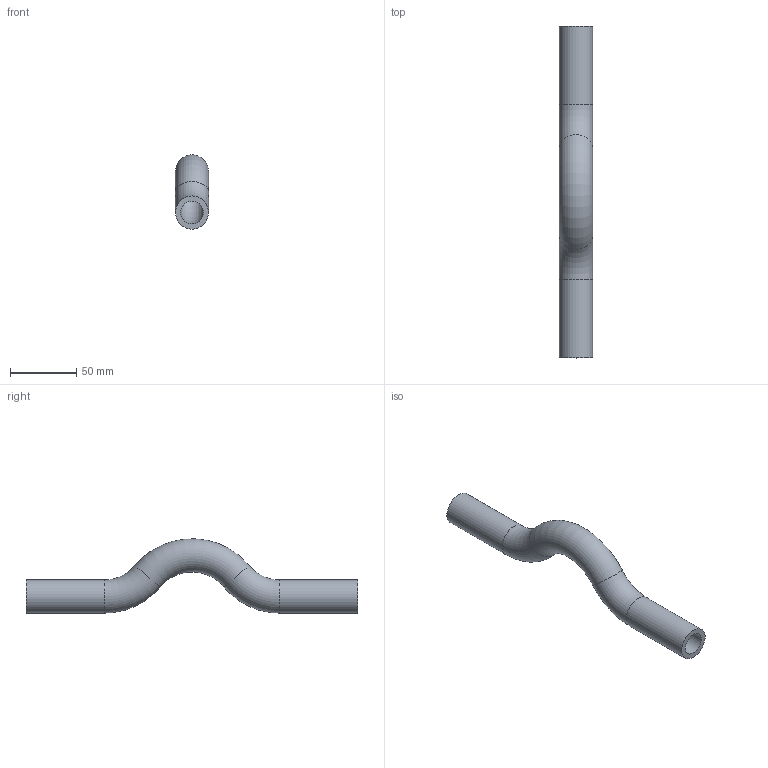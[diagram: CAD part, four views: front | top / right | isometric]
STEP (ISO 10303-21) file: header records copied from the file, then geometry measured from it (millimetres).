
FILE_DESCRIPTION(('STEP AP203'), '1');
FILE_NAME('ÂÐ.747111.025 - VTp.793.0.025', '', ('UNSPECIFIED'), ('UNSPECIFIED'), 'C3D Converter', 'C3D Toolkit', '');
FILE_SCHEMA(('CONFIG_CONTROL_DESIGN'));
Length unit declared in the file: millimetre
Products named in the file (1): ВР.747111.025
Bounding box: 25 x 250 x 55.93 mm (x, y, z)
Volume: 70881.9 mm3; surface area: 35968.8 mm2
Topology: 1 solids, 1 shells, 12 faces, 22 edges, 12 vertices
Faces by surface type: torus 6, cylinder 4, plane 2
Full cylindrical faces by diameter (mm): 17 x2, 25 x2
Entity records: 288 total; most frequent: DIRECTION 50, CARTESIAN_POINT 37, AXIS2_PLACEMENT_3D 25, EDGE_LOOP 24, ORIENTED_EDGE 24, FACE_OUTER_BOUND 20, ADVANCED_FACE 12, EDGE_CURVE 12
